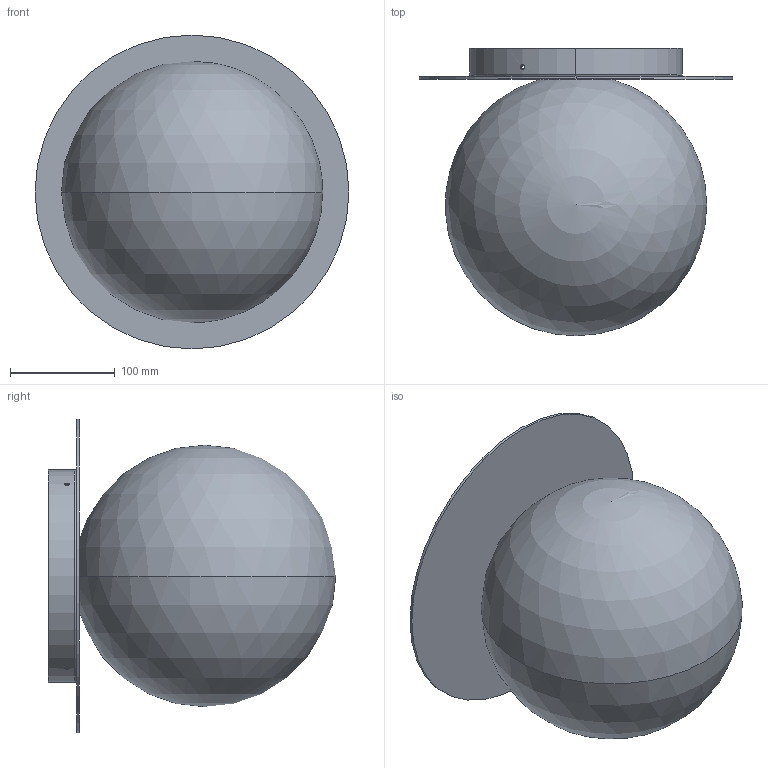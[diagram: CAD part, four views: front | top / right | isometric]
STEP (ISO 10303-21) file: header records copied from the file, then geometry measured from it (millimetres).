
FILE_DESCRIPTION (( 'STEP AP203' ), '1' );
FILE_NAME ('PLKI2501XXXXXXX-PER 3D.STEP', '2025-06-25T07:34:45', ( '' ), ( '' ), 'SwSTEP 2.0', 'SolidWorks 2024', '' );
FILE_SCHEMA (( 'CONFIG_CONTROL_DESIGN' ));
Length unit declared in the file: millimetre
Products named in the file (4): WSCM2F0031-0100-02; WSVAXXX0250BC7XX00; PLKI2501XXXXXXX-PER 3D; WSCM2C0209-0700-01_WSCM2C0209-0700-01
Assembly tree (3 placements, depth 2):
  PLKI2501XXXXXXX-PER 3D
    WSCM2C0209-0700-01_WSCM2C0209-0700-01
    WSVAXXX0250BC7XX00
    WSCM2F0031-0100-02
Bounding box: 300 x 274.8 x 300 mm (x, y, z)
Volume: 969469.4 mm3; surface area: 614725 mm2
Topology: 3 solids, 3 shells, 77 faces, 200 edges, 126 vertices
Faces by surface type: cylinder 50, cone 14, plane 5, sphere 4, torus 4
Entity records: 3140 total; most frequent: CARTESIAN_POINT 741, DIRECTION 458, ORIENTED_EDGE 380, AXIS2_PLACEMENT_3D 197, EDGE_CURVE 190, EDGE_LOOP 120, VERTEX_POINT 120, CIRCLE 114
